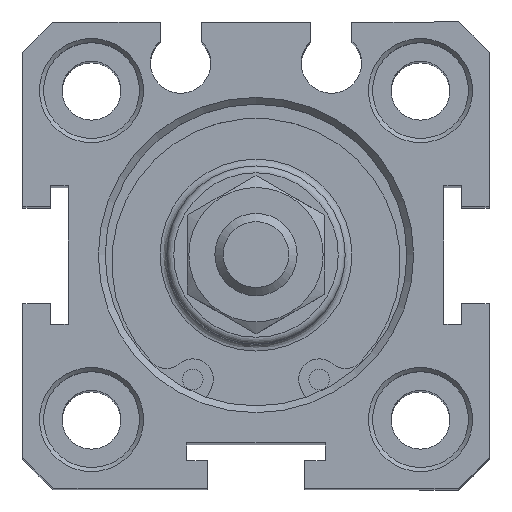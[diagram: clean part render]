
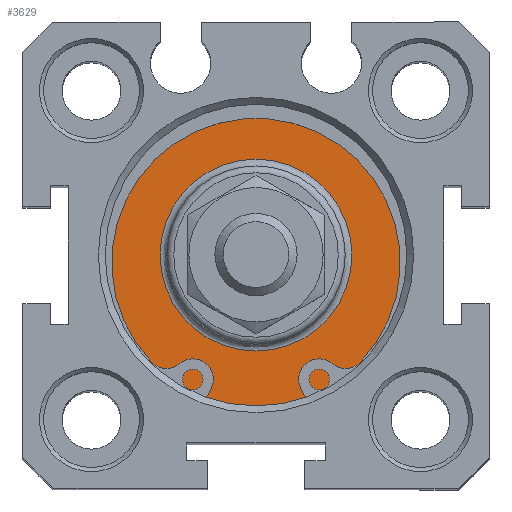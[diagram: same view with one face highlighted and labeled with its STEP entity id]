
A CAD part, top view. The second image highlights one B-rep face of the part: STEP entity #3629.
In plain terms, the highlighted planar face has unit normal (0, 0, 1).
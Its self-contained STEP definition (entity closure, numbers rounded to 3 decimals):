
#3567=CARTESIAN_POINT('',(0.957,6.522,76.8));
#3568=VERTEX_POINT('',#3567);
#3569=CARTESIAN_POINT('',(0.957,-0.478,76.8));
#3570=DIRECTION('',(0.0,0.0,1.0));
#3571=DIRECTION('',(0.0,-1.0,0.0));
#3572=AXIS2_PLACEMENT_3D('',#3569,#3570,#3571);
#3573=CIRCLE('',#3572,7.);
#3574=EDGE_CURVE('',#3568,#3568,#3573,.T.);
#3610=CARTESIAN_POINT('',(0.957,8.272,76.8));
#3611=DIRECTION('',(0.0,0.0,1.0));
#3612=DIRECTION('',(1.0,0.0,0.0));
#3613=AXIS2_PLACEMENT_3D('',#3610,#3611,#3612);
#3614=PLANE('',#3613);
#3615=CARTESIAN_POINT('',(0.957,10.522,76.8));
#3616=VERTEX_POINT('',#3615);
#3617=CARTESIAN_POINT('',(0.957,-0.478,76.8));
#3618=DIRECTION('',(0.0,0.0,1.0));
#3619=DIRECTION('',(0.0,1.0,0.0));
#3620=AXIS2_PLACEMENT_3D('',#3617,#3618,#3619);
#3621=CIRCLE('',#3620,11.);
#3622=EDGE_CURVE('',#3616,#3616,#3621,.T.);
#3623=ORIENTED_EDGE('',*,*,#3622,.T.);
#3624=EDGE_LOOP('',(#3623));
#3625=FACE_OUTER_BOUND('',#3624,.T.);
#3626=ORIENTED_EDGE('',*,*,#3574,.F.);
#3627=EDGE_LOOP('',(#3626));
#3628=FACE_BOUND('',#3627,.T.);
#3629=ADVANCED_FACE('',(#3625,#3628),#3614,.T.);
